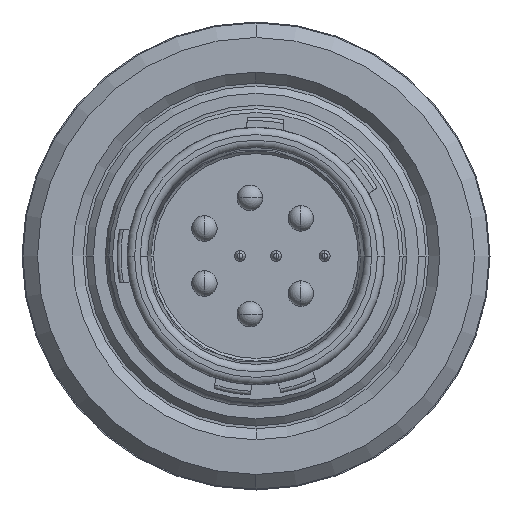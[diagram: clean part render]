
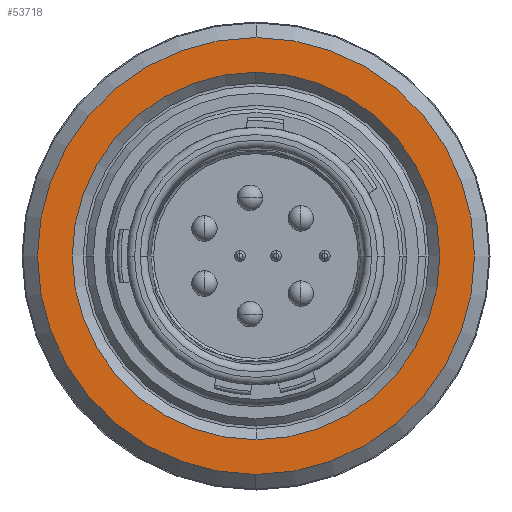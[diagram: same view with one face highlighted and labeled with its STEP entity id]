
A CAD part, left-side view. The second image highlights one B-rep face of the part: STEP entity #53718.
In plain terms, the highlighted planar face has unit normal (-1, 0, 0).
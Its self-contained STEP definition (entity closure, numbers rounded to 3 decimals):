
#15563=CARTESIAN_POINT('',(-7.5,0.,0.));
#15564=DIRECTION('',(1.,0.,0.));
#15565=DIRECTION('',(0.,0.,-1.));
#15566=AXIS2_PLACEMENT_3D('',#15563,#15564,#15565);
#15568=CARTESIAN_POINT('',(-7.5,0.,0.));
#15569=DIRECTION('',(1.,0.,0.));
#15570=DIRECTION('',(0.,1.,0.));
#15571=AXIS2_PLACEMENT_3D('',#15568,#15569,#15570);
#15573=CARTESIAN_POINT('',(-7.5,0.,0.));
#15574=DIRECTION('',(1.,0.,0.));
#15575=DIRECTION('',(0.,0.,1.));
#15576=AXIS2_PLACEMENT_3D('',#15573,#15574,#15575);
#15578=CARTESIAN_POINT('',(-7.5,0.,0.));
#15579=DIRECTION('',(1.,0.,0.));
#15580=DIRECTION('',(0.,-1.,0.));
#15581=AXIS2_PLACEMENT_3D('',#15578,#15579,#15580);
#15583=CARTESIAN_POINT('',(-7.5,0.,0.));
#15584=DIRECTION('',(-1.,0.,0.));
#15585=DIRECTION('',(0.,0.,-1.));
#15586=AXIS2_PLACEMENT_3D('',#15583,#15584,#15585);
#15588=CARTESIAN_POINT('',(-7.5,0.,0.));
#15589=DIRECTION('',(-1.,0.,0.));
#15590=DIRECTION('',(0.,-1.,0.));
#15591=AXIS2_PLACEMENT_3D('',#15588,#15589,#15590);
#15593=CARTESIAN_POINT('',(-7.5,0.,0.));
#15594=DIRECTION('',(-1.,0.,0.));
#15595=DIRECTION('',(0.,0.,1.));
#15596=AXIS2_PLACEMENT_3D('',#15593,#15594,#15595);
#15598=CARTESIAN_POINT('',(-7.5,0.,0.));
#15599=DIRECTION('',(-1.,0.,0.));
#15600=DIRECTION('',(0.,1.,0.));
#15601=AXIS2_PLACEMENT_3D('',#15598,#15599,#15600);
#23159=CARTESIAN_POINT('',(-7.5,0.,-5.975));
#23160=VERTEX_POINT('',#23159);
#23161=CARTESIAN_POINT('',(-7.5,0.,5.975));
#23162=CARTESIAN_POINT('',(-7.5,-5.975,0.));
#23163=VERTEX_POINT('',#23161);
#23164=VERTEX_POINT('',#23162);
#23165=CARTESIAN_POINT('',(-7.5,5.975,0.));
#23166=VERTEX_POINT('',#23165);
#23167=CARTESIAN_POINT('',(-7.5,-5.025,0.));
#23168=CARTESIAN_POINT('',(-7.5,0.,5.025));
#23169=VERTEX_POINT('',#23167);
#23170=VERTEX_POINT('',#23168);
#23171=CARTESIAN_POINT('',(-7.5,0.,-5.025));
#23172=VERTEX_POINT('',#23171);
#23173=CARTESIAN_POINT('',(-7.5,5.025,0.));
#23174=VERTEX_POINT('',#23173);
#53697=CARTESIAN_POINT('',(-7.5,0.,0.));
#53698=DIRECTION('',(-1.,0.,0.));
#53699=DIRECTION('',(0.,0.,1.));
#53700=AXIS2_PLACEMENT_3D('',#53697,#53698,#53699);
#53701=PLANE('',#53700);
#53702=ORIENTED_EDGE('',*,*,#53660,.T.);
#53703=ORIENTED_EDGE('',*,*,#53658,.T.);
#53704=ORIENTED_EDGE('',*,*,#53684,.T.);
#53705=ORIENTED_EDGE('',*,*,#53682,.T.);
#53706=EDGE_LOOP('',(#53702,#53703,#53704,#53705));
#53707=FACE_OUTER_BOUND('',#53706,.F.);
#53709=ORIENTED_EDGE('',*,*,#53708,.T.);
#53711=ORIENTED_EDGE('',*,*,#53710,.T.);
#53713=ORIENTED_EDGE('',*,*,#53712,.T.);
#53715=ORIENTED_EDGE('',*,*,#53714,.T.);
#53716=EDGE_LOOP('',(#53709,#53711,#53713,#53715));
#53717=FACE_BOUND('',#53716,.F.);
#15567=CIRCLE('',#15566,5.975);
#15572=CIRCLE('',#15571,5.975);
#15577=CIRCLE('',#15576,5.975);
#15582=CIRCLE('',#15581,5.975);
#15587=CIRCLE('',#15586,5.025);
#15592=CIRCLE('',#15591,5.025);
#15597=CIRCLE('',#15596,5.025);
#15602=CIRCLE('',#15601,5.025);
#53658=EDGE_CURVE('',#23166,#23163,#15572,.T.);
#53660=EDGE_CURVE('',#23160,#23166,#15567,.T.);
#53682=EDGE_CURVE('',#23164,#23160,#15582,.T.);
#53684=EDGE_CURVE('',#23163,#23164,#15577,.T.);
#53708=EDGE_CURVE('',#23172,#23169,#15587,.T.);
#53710=EDGE_CURVE('',#23169,#23170,#15592,.T.);
#53712=EDGE_CURVE('',#23170,#23174,#15597,.T.);
#53714=EDGE_CURVE('',#23174,#23172,#15602,.T.);
#53718=ADVANCED_FACE('',(#53707,#53717),#53701,.T.);
